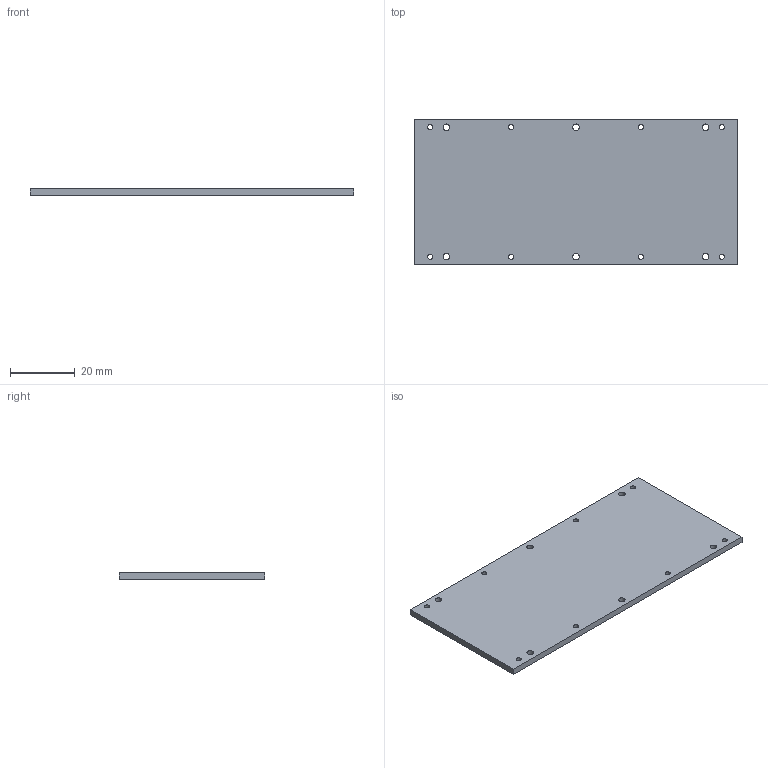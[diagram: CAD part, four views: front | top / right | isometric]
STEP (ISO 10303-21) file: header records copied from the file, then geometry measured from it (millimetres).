
FILE_DESCRIPTION(/* description */ ('','CAx-IF Rec.Pracs.---Representation and Presentation of Product Manufacturing Information (PMI)---4.0---2014-10-13'),/* implementation_level */ '2;1');
FILE_NAME(/* name */ 'a1_mini_platform_L2_edge_v2.step',/* time_stamp */ '2025-02-10T14:45:36+08:00',/* author */ (''),/* organization */ (''),/* preprocessor_version */ 'ST-DEVELOPER v20',/* originating_system */ 'Autodesk Translation Framework v13.20.0.188',/* authorisation */ '');
FILE_SCHEMA (('AP242_MANAGED_MODEL_BASED_3D_ENGINEERING_MIM_LF { 1 0 10303 442 1 1 4 }'));
Length unit declared in the file: millimetre
Products named in the file (1): a1_mini_platform_L2_edge
Bounding box: 100 x 45 x 2 mm (x, y, z)
Volume: 8930.1 mm3; surface area: 9666 mm2
Topology: 1 solids, 1 shells, 20 faces, 54 edges, 36 vertices
Faces by surface type: cylinder 14, plane 6
Full cylindrical faces by diameter (mm): 1.6 x8, 2 x6
Entity records: 735 total; most frequent: DIRECTION 124, CARTESIAN_POINT 111, ORIENTED_EDGE 108, EDGE_CURVE 54, AXIS2_PLACEMENT_3D 49, EDGE_LOOP 48, VERTEX_POINT 36, FACE_BOUND 28
